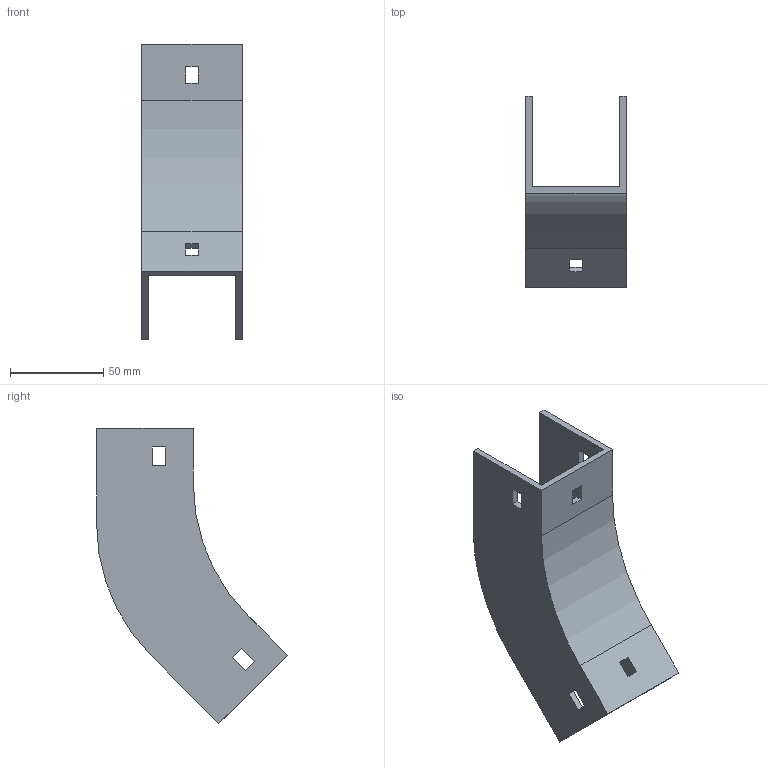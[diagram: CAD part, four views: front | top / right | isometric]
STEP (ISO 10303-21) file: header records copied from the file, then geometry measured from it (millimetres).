
FILE_DESCRIPTION (( 'STEP AP214' ), '1' );
FILE_NAME ('34F1B050.step', '2025-02-21T12:50:40', ( '' ), ( '' ), 'SwSTEP 2.0', 'SolidWorks 2023', '' );
FILE_SCHEMA (( 'AUTOMOTIVE_DESIGN' ));
Length unit declared in the file: millimetre
Products named in the file (1): 34F1B050
Bounding box: 54 x 102.5 x 158.69 mm (x, y, z)
Volume: 81461.4 mm3; surface area: 49561.1 mm2
Topology: 1 solids, 1 shells, 42 faces, 120 edges, 80 vertices
Faces by surface type: plane 38, cylinder 4
Entity records: 1399 total; most frequent: CARTESIAN_POINT 243, ORIENTED_EDGE 240, DIRECTION 214, EDGE_CURVE 120, LINE 112, VECTOR 112, VERTEX_POINT 80, EDGE_LOOP 54
